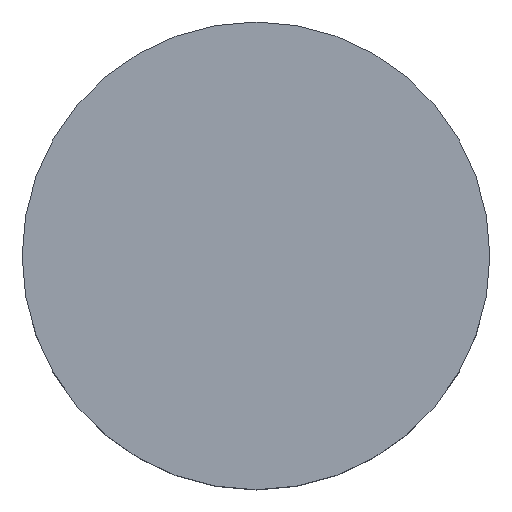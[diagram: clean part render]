
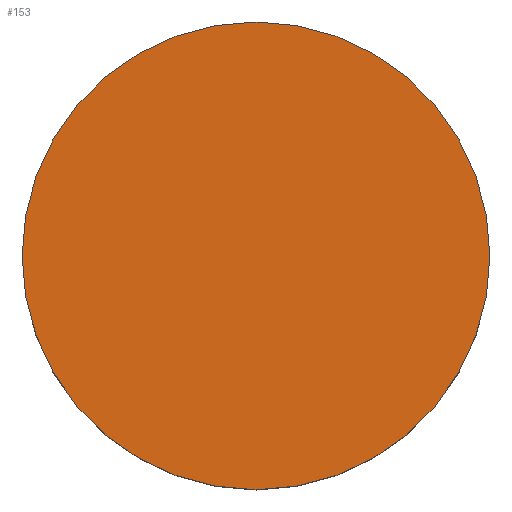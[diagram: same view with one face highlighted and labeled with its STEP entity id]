
A CAD part, top view. The second image highlights one B-rep face of the part: STEP entity #153.
In plain terms, the highlighted planar face has unit normal (0, 0, 1).
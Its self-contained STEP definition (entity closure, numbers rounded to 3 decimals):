
#153=ADVANCED_FACE('',(#185),#178,.T.);
#178=PLANE('',#446);
#185=FACE_OUTER_BOUND('',#205,.T.);
#205=EDGE_LOOP('',(#235,#236));
#235=ORIENTED_EDGE('',*,*,#361,.F.);
#236=ORIENTED_EDGE('',*,*,#362,.F.);
#331=VERTEX_POINT('',#639);
#332=VERTEX_POINT('',#640);
#361=EDGE_CURVE('',#331,#332,#409,.T.);
#362=EDGE_CURVE('',#332,#331,#410,.T.);
#409=CIRCLE('',#444,8.);
#410=CIRCLE('',#445,8.);
#444=AXIS2_PLACEMENT_3D('',#638,#505,#506);
#445=AXIS2_PLACEMENT_3D('',#641,#507,#508);
#446=AXIS2_PLACEMENT_3D('',#642,#509,#510);
#505=DIRECTION('',(0.,0.,-1.));
#506=DIRECTION('',(0.,1.,0.));
#507=DIRECTION('',(0.,0.,-1.));
#508=DIRECTION('',(0.,-1.,0.));
#509=DIRECTION('',(0.,0.,1.));
#510=DIRECTION('',(0.,-1.,0.));
#638=CARTESIAN_POINT('',(0.,0.,5.));
#639=CARTESIAN_POINT('',(8.,0.,5.));
#640=CARTESIAN_POINT('',(-8.,0.,5.));
#641=CARTESIAN_POINT('',(0.,0.,5.));
#642=CARTESIAN_POINT('',(0.,0.,5.));
